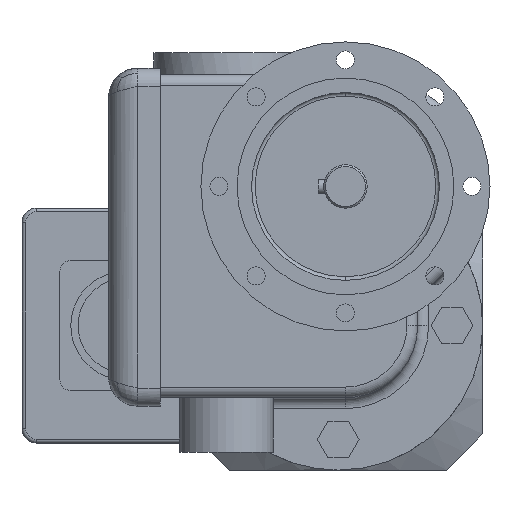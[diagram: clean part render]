
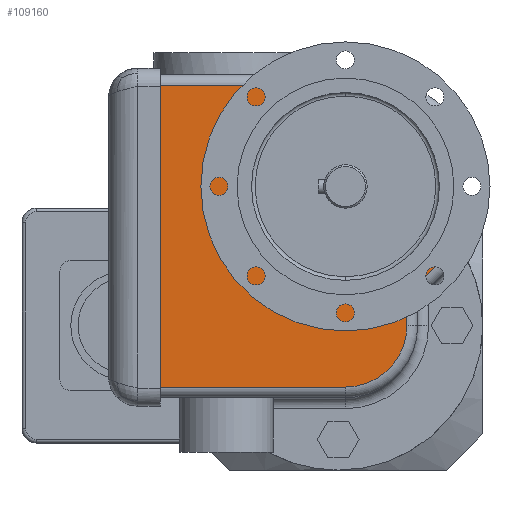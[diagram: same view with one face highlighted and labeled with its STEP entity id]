
A CAD part, left-side view. The second image highlights one B-rep face of the part: STEP entity #109160.
In plain terms, the highlighted planar face has unit normal (-1, 0, 0) as drawn and (0, 0, 1) by its records, which use the part's own axes.
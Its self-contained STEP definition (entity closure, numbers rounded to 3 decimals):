
#71320=CARTESIAN_POINT('',(-107.055,-324.978,174.));
#71330=VERTEX_POINT('',#71320);
#71520=CARTESIAN_POINT('',(-121.28,-316.477,174.));
#71530=VERTEX_POINT('',#71520);
#71560=CARTESIAN_POINT('',(-106.542,-307.966,174.));
#71570=DIRECTION('',(0.,0.,1.));
#71580=DIRECTION('',(1.,0.,0.));
#71590=AXIS2_PLACEMENT_3D('',#71560,#71570,#71580);
#71600=CIRCLE('',#71590,17.02);
#71610=EDGE_CURVE('',#71530,#71330,#71600,.T.);
#71780=CARTESIAN_POINT('',(-71.121,-312.553,174.));
#71790=VERTEX_POINT('',#71780);
#71820=CARTESIAN_POINT('',(-65.125,-312.788,174.));
#71830=DIRECTION('',(0.,0.,1.));
#71840=DIRECTION('',(1.,0.,0.));
#71850=AXIS2_PLACEMENT_3D('',#71820,#71830,#71840);
#71860=CIRCLE('',#71850,6.);
#71870=CARTESIAN_POINT('',(-70.39,-309.909,174.));
#71880=VERTEX_POINT('',#71870);
#71890=EDGE_CURVE('',#71880,#71790,#71860,.T.);
#72200=CARTESIAN_POINT('',(-66.958,-296.478,174.));
#72210=VERTEX_POINT('',#72200);
#72260=CARTESIAN_POINT('',(-66.958,-286.671,174.));
#72270=DIRECTION('',(0.,-1.,0.));
#72280=VECTOR('',#72270,1.);
#72290=LINE('',#72260,#72280);
#72300=CARTESIAN_POINT('',(-66.958,-245.27,174.));
#72310=VERTEX_POINT('',#72300);
#72320=EDGE_CURVE('',#72310,#72210,#72290,.T.);
#84770=CARTESIAN_POINT('',(-139.846,-245.27,174.));
#84780=DIRECTION('',(1.,0.,0.));
#84790=VECTOR('',#84780,1.);
#84800=LINE('',#84770,#84790);
#84810=CARTESIAN_POINT('',(-150.458,-245.27,174.));
#84820=VERTEX_POINT('',#84810);
#84830=EDGE_CURVE('',#84820,#72310,#84800,.T.);
#93760=CARTESIAN_POINT('',(-133.458,-313.478,174.));
#93770=VERTEX_POINT('',#93760);
#93960=CARTESIAN_POINT('',(-150.458,-296.478,174.));
#93970=VERTEX_POINT('',#93960);
#94000=CARTESIAN_POINT('',(-133.458,-296.478,174.));
#94010=DIRECTION('',(0.,0.,1.));
#94020=DIRECTION('',(1.,0.,0.));
#94030=AXIS2_PLACEMENT_3D('',#94000,#94010,#94020);
#94040=CIRCLE('',#94030,17.);
#94050=EDGE_CURVE('',#93970,#93770,#94040,.T.);
#96760=CARTESIAN_POINT('',(-126.476,-313.478,174.));
#96770=VERTEX_POINT('',#96760);
#96800=CARTESIAN_POINT('',(-126.476,-319.478,174.));
#96810=DIRECTION('',(0.,0.,1.));
#96820=DIRECTION('',(1.,0.,0.));
#96830=AXIS2_PLACEMENT_3D('',#96800,#96810,#96820);
#96840=CIRCLE('',#96830,6.);
#96850=EDGE_CURVE('',#71530,#96770,#96840,.T.);
#101820=CARTESIAN_POINT('',(-150.458,-286.671,174.));
#101830=DIRECTION('',(0.,-1.,0.));
#101840=VECTOR('',#101830,1.);
#101850=LINE('',#101820,#101840);
#101860=EDGE_CURVE('',#84820,#93970,#101850,.T.);
#106520=CARTESIAN_POINT('',(-94.958,-296.478,174.));
#106530=DIRECTION('',(0.,0.,1.));
#106540=DIRECTION('',(1.,0.,0.));
#106550=AXIS2_PLACEMENT_3D('',#106520,#106530,#106540);
#106560=CIRCLE('',#106550,28.);
#106570=EDGE_CURVE('',#71880,#72210,#106560,.T.);
#106630=CARTESIAN_POINT('',(-139.846,-324.978,174.));
#106640=DIRECTION('',(1.,0.,0.));
#106650=VECTOR('',#106640,1.);
#106660=LINE('',#106630,#106650);
#106670=CARTESIAN_POINT('',(-83.6,-324.978,174.));
#106680=VERTEX_POINT('',#106670);
#106690=EDGE_CURVE('',#71330,#106680,#106660,.T.);
#107840=CARTESIAN_POINT('',(-84.048,-312.048,174.));
#107850=DIRECTION('',(0.,0.,1.));
#107860=DIRECTION('',(1.,0.,0.));
#107870=AXIS2_PLACEMENT_3D('',#107840,#107850,#107860);
#107880=CIRCLE('',#107870,12.937);
#107890=EDGE_CURVE('',#106680,#71790,#107880,.T.);
#108740=CARTESIAN_POINT('',(-139.846,-313.478,174.));
#108750=DIRECTION('',(-1.,0.,0.));
#108760=VECTOR('',#108750,1.);
#108770=LINE('',#108740,#108760);
#108780=EDGE_CURVE('',#96770,#93770,#108770,.T.);
#108830=CARTESIAN_POINT('',(-106.445,-262.636,174.));
#108840=DIRECTION('',(0.,0.,1.));
#108850=DIRECTION('',(1.,0.,0.));
#108860=AXIS2_PLACEMENT_3D('',#108830,#108840,#108850);
#108870=PLANE('',#108860);
#108880=ORIENTED_EDGE('',*,*,#71610,.T.);
#108890=ORIENTED_EDGE('',*,*,#96850,.F.);
#108900=ORIENTED_EDGE('',*,*,#108780,.F.);
#108910=ORIENTED_EDGE('',*,*,#94050,.T.);
#108920=ORIENTED_EDGE('',*,*,#101860,.T.);
#108930=ORIENTED_EDGE('',*,*,#84830,.F.);
#108940=ORIENTED_EDGE('',*,*,#72320,.F.);
#108950=ORIENTED_EDGE('',*,*,#106570,.T.);
#108960=ORIENTED_EDGE('',*,*,#71890,.F.);
#108970=ORIENTED_EDGE('',*,*,#107890,.T.);
#108980=ORIENTED_EDGE('',*,*,#106690,.T.);
#108990=EDGE_LOOP('',(#108980,#108970,#108960,#108950,#108940,#108930,
#108920,#108910,#108900,#108890,#108880));
#109000=FACE_OUTER_BOUND('',#108990,.T.);
#109010=CARTESIAN_POINT('',(-94.958,-296.478,174.));
#109020=DIRECTION('',(0.,0.,-1.));
#109030=DIRECTION('',(-1.,0.,0.));
#109040=AXIS2_PLACEMENT_3D('',#109010,#109020,#109030);
#109050=CIRCLE('',#109040,25.);
#109060=CARTESIAN_POINT('',(-119.958,-296.478,174.));
#109070=VERTEX_POINT('',#109060);
#109080=CARTESIAN_POINT('',(-69.958,-296.478,174.));
#109090=VERTEX_POINT('',#109080);
#109100=EDGE_CURVE('',#109070,#109090,#109050,.T.);
#109110=ORIENTED_EDGE('',*,*,#109100,.T.);
#109120=EDGE_CURVE('',#109090,#109070,#109050,.T.);
#109130=ORIENTED_EDGE('',*,*,#109120,.T.);
#109140=EDGE_LOOP('',(#109130,#109110));
#109150=FACE_BOUND('',#109140,.T.);
#109160=ADVANCED_FACE('',(#109000,#109150),#108870,.T.);
